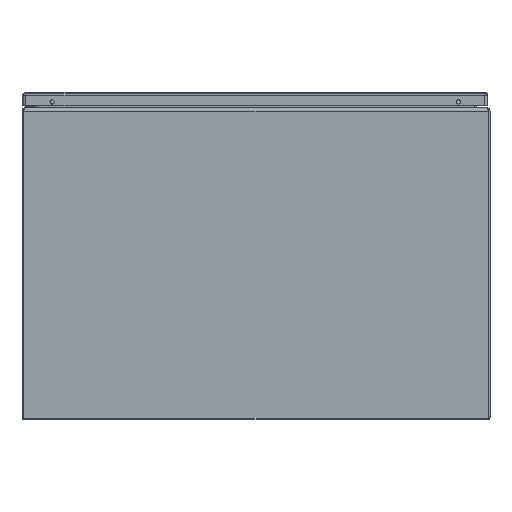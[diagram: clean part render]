
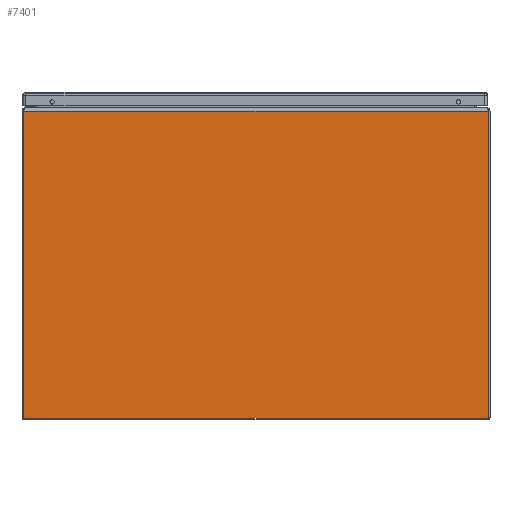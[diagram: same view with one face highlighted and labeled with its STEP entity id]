
A CAD part, front view. The second image highlights one B-rep face of the part: STEP entity #7401.
In plain terms, the highlighted planar face has unit normal (0, -1, 0).
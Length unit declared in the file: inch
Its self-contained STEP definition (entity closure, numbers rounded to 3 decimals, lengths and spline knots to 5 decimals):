
#1616 = CARTESIAN_POINT ( 'NONE',  ( 11.921, 0., 15.838 ) ) ;
#1806 = CARTESIAN_POINT ( 'NONE',  ( -11.921, 0., 0.08 ) ) ;
#1952 = EDGE_CURVE ( 'NONE', #28660, #28543, #3176, .T. ) ;
#1954 = EDGE_CURVE ( 'NONE', #28660, #28609, #3178, .T. ) ;
#1955 = EDGE_CURVE ( 'NONE', #28609, #28817, #3171, .T. ) ;
#1956 = EDGE_CURVE ( 'NONE', #28543, #28817, #3173, .T. ) ;
#3171 = LINE ( 'NONE', #19890, #3180 ) ;
#3173 = LINE ( 'NONE', #19873, #3182 ) ;
#3175 = VECTOR ( 'NONE', #19880, 39.37008 ) ;
#3176 = LINE ( 'NONE', #19885, #3175 ) ;
#3177 = VECTOR ( 'NONE', #19874, 39.37008 ) ;
#3178 = LINE ( 'NONE', #19879, #3177 ) ;
#3180 = VECTOR ( 'NONE', #19872, 39.37008 ) ;
#3182 = VECTOR ( 'NONE', #19870, 39.37008 ) ;
#3557 = CARTESIAN_POINT ( 'NONE',  ( 11.921, 0., 0.08 ) ) ;
#3629 = CARTESIAN_POINT ( 'NONE',  ( -11.921, 0., 15.838 ) ) ;
#7401 = ADVANCED_FACE ( 'NONE', ( #17436 ), #13485, .T. ) ;
#13478 = DIRECTION ( 'NONE',  ( 0., 0., -1. ) ) ;
#13479 = DIRECTION ( 'NONE',  ( 0., -1., 0. ) ) ;
#13485 = PLANE ( 'NONE',  #31739 ) ;
#13491 = CARTESIAN_POINT ( 'NONE',  ( 12., 0., 0.08 ) ) ;
#17436 = FACE_OUTER_BOUND ( 'NONE', #25707, .T. ) ;
#19870 = DIRECTION ( 'NONE',  ( 0., 0., -1. ) ) ;
#19872 = DIRECTION ( 'NONE',  ( -1., 0., 0. ) ) ;
#19873 = CARTESIAN_POINT ( 'NONE',  ( -11.921, 0., 16.569 ) ) ;
#19874 = DIRECTION ( 'NONE',  ( 0., 0., -1. ) ) ;
#19879 = CARTESIAN_POINT ( 'NONE',  ( 11.921, 0., 0.08 ) ) ;
#19880 = DIRECTION ( 'NONE',  ( -1., 0., 0. ) ) ;
#19885 = CARTESIAN_POINT ( 'NONE',  ( 12., 0., 15.838 ) ) ;
#19890 = CARTESIAN_POINT ( 'NONE',  ( 12., 0., 0.08 ) ) ;
#25707 = EDGE_LOOP ( 'NONE', ( #34481, #34482, #34483, #34484 ) ) ;
#28543 = VERTEX_POINT ( 'NONE', #3629 ) ;
#28609 = VERTEX_POINT ( 'NONE', #3557 ) ;
#28660 = VERTEX_POINT ( 'NONE', #1616 ) ;
#28817 = VERTEX_POINT ( 'NONE', #1806 ) ;
#31739 = AXIS2_PLACEMENT_3D ( 'NONE', #13491, #13479, #13478 ) ;
#34481 = ORIENTED_EDGE ( 'NONE', *, *, #1955, .F. ) ;
#34482 = ORIENTED_EDGE ( 'NONE', *, *, #1954, .F. ) ;
#34483 = ORIENTED_EDGE ( 'NONE', *, *, #1952, .T. ) ;
#34484 = ORIENTED_EDGE ( 'NONE', *, *, #1956, .T. ) ;
